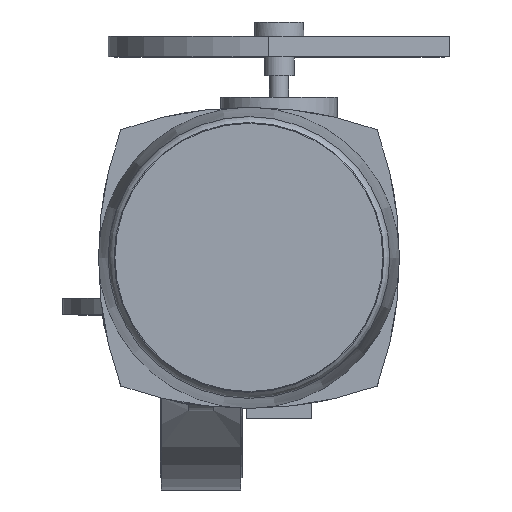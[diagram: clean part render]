
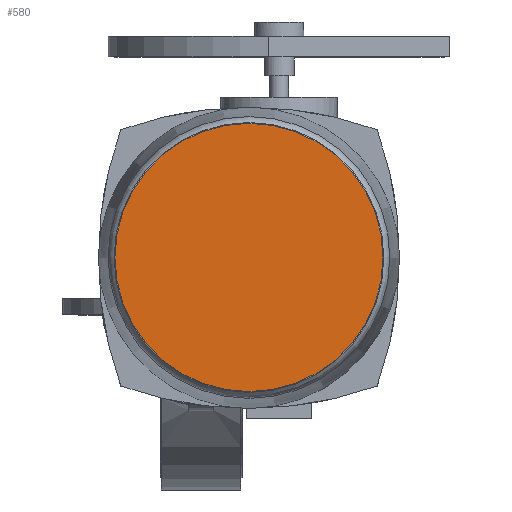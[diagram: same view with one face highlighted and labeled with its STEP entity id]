
A CAD part, top view. The second image highlights one B-rep face of the part: STEP entity #580.
In plain terms, the highlighted planar face has unit normal (0, 0, 1).
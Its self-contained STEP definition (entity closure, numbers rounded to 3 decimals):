
#580=ADVANCED_FACE('',(#7005),#7007,.T.);
#7005=FACE_BOUND('',#7006,.T.);
#7006=EDGE_LOOP('',(#12417));
#7007=PLANE('',#7008);
#7008=AXIS2_PLACEMENT_3D('',#7009,#7010,#7011);
#7009=CARTESIAN_POINT('',(35.,35.,558.));
#7010=DIRECTION('',(0.,0.,1.));
#7011=DIRECTION('',(0.,1.,0.));
#12417=ORIENTED_EDGE('',*,*,#16364,.F.);
#16364=EDGE_CURVE('',#18516,#18516,#18517,.F.);
#18516=VERTEX_POINT('',#22340);
#18517=CIRCLE('',#22341,98.019);
#22340=CARTESIAN_POINT('',(-63.019,35.,558.));
#22341=AXIS2_PLACEMENT_3D('',#22342,#22343,#22344);
#22342=CARTESIAN_POINT('',(35.,35.,558.));
#22343=DIRECTION('',(0.,0.,1.));
#22344=DIRECTION('',(-1.,0.,0.));
